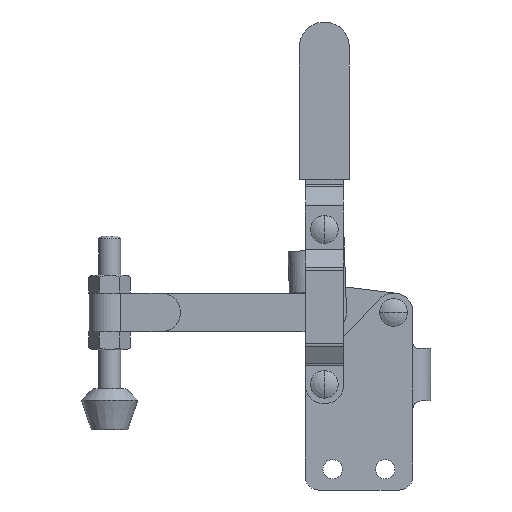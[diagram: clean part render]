
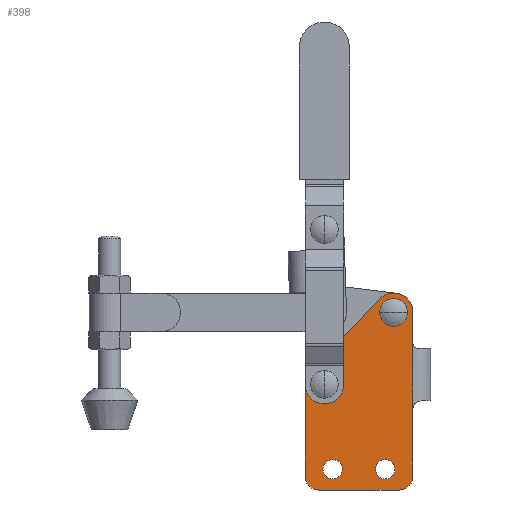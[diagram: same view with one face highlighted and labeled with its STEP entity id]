
A CAD part, front view. The second image highlights one B-rep face of the part: STEP entity #398.
In plain terms, the highlighted planar face has unit normal (0, -1, 0).
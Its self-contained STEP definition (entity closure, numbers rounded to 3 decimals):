
#225=CARTESIAN_POINT('Axis2P3D Location',(88.013,-6.4,0.)) ;
#230=CARTESIAN_POINT('Line Origine',(88.013,-6.4,17.1)) ;
#234=CARTESIAN_POINT('Cartesian Point',(88.013,-6.4,5.)) ;
#236=CARTESIAN_POINT('Cartesian Point',(88.013,-6.4,29.2)) ;
#240=CARTESIAN_POINT('Control Point',(88.013,-6.4,52.972)) ;
#241=CARTESIAN_POINT('Control Point',(88.013,-6.4,29.2)) ;
#242=CARTESIAN_POINT('Cartesian Point',(88.026,-6.4,52.972)) ;
#246=CARTESIAN_POINT('Control Point',(88.013,-6.4,53.2)) ;
#247=CARTESIAN_POINT('Control Point',(88.013,-6.4,52.972)) ;
#248=CARTESIAN_POINT('Cartesian Point',(88.013,-6.4,53.2)) ;
#251=CARTESIAN_POINT('Line Origine',(88.013,-6.4,58.7)) ;
#255=CARTESIAN_POINT('Cartesian Point',(88.013,-6.4,64.2)) ;
#258=CARTESIAN_POINT('Axis2P3D Location',(81.013,-6.4,64.2)) ;
#262=CARTESIAN_POINT('Cartesian Point',(81.044,-6.4,71.2)) ;
#265=CARTESIAN_POINT('Axis2P3D Location',(81.013,-6.4,64.2)) ;
#269=CARTESIAN_POINT('Cartesian Point',(75.967,-6.4,69.052)) ;
#272=CARTESIAN_POINT('Line Origine',(63.467,-6.4,56.052)) ;
#276=CARTESIAN_POINT('Cartesian Point',(50.967,-6.4,43.052)) ;
#279=CARTESIAN_POINT('Axis2P3D Location',(56.013,-6.4,38.2)) ;
#283=CARTESIAN_POINT('Cartesian Point',(49.013,-6.4,38.2)) ;
#286=CARTESIAN_POINT('Line Origine',(49.013,-6.4,21.6)) ;
#290=CARTESIAN_POINT('Cartesian Point',(49.013,-6.4,5.)) ;
#293=CARTESIAN_POINT('Axis2P3D Location',(54.013,-6.4,5.)) ;
#297=CARTESIAN_POINT('Cartesian Point',(54.013,-6.4,0.)) ;
#300=CARTESIAN_POINT('Line Origine',(68.513,-6.4,0.)) ;
#304=CARTESIAN_POINT('Cartesian Point',(83.013,-6.4,0.)) ;
#307=CARTESIAN_POINT('Axis2P3D Location',(83.013,-6.4,5.)) ;
#326=CARTESIAN_POINT('Axis2P3D Location',(78.013,-6.4,7.5)) ;
#330=CARTESIAN_POINT('Cartesian Point',(78.013,-6.4,4.)) ;
#332=CARTESIAN_POINT('Cartesian Point',(78.013,-6.4,11.)) ;
#335=CARTESIAN_POINT('Axis2P3D Location',(78.013,-6.4,7.5)) ;
#344=CARTESIAN_POINT('Axis2P3D Location',(59.013,-6.4,7.5)) ;
#348=CARTESIAN_POINT('Cartesian Point',(59.013,-6.4,4.)) ;
#350=CARTESIAN_POINT('Cartesian Point',(59.013,-6.4,11.)) ;
#353=CARTESIAN_POINT('Axis2P3D Location',(59.013,-6.4,7.5)) ;
#362=CARTESIAN_POINT('Axis2P3D Location',(81.013,-6.4,64.2)) ;
#366=CARTESIAN_POINT('Cartesian Point',(81.013,-6.4,61.)) ;
#368=CARTESIAN_POINT('Cartesian Point',(81.013,-6.4,67.4)) ;
#371=CARTESIAN_POINT('Axis2P3D Location',(81.013,-6.4,64.2)) ;
#380=CARTESIAN_POINT('Axis2P3D Location',(56.013,-6.4,38.2)) ;
#384=CARTESIAN_POINT('Cartesian Point',(56.013,-6.4,35.)) ;
#386=CARTESIAN_POINT('Cartesian Point',(56.013,-6.4,41.4)) ;
#389=CARTESIAN_POINT('Axis2P3D Location',(56.013,-6.4,38.2)) ;
#226=DIRECTION('Axis2P3D Direction',(0.,1.,0.)) ;
#227=DIRECTION('Axis2P3D XDirection',(0.,0.,-1.)) ;
#231=DIRECTION('Vector Direction',(0.,0.,1.)) ;
#252=DIRECTION('Vector Direction',(0.,0.,1.)) ;
#259=DIRECTION('Axis2P3D Direction',(0.,1.,0.)) ;
#266=DIRECTION('Axis2P3D Direction',(0.,1.,0.)) ;
#273=DIRECTION('Vector Direction',(-0.693,0.,-0.721)) ;
#280=DIRECTION('Axis2P3D Direction',(0.,1.,0.)) ;
#287=DIRECTION('Vector Direction',(0.,0.,1.)) ;
#294=DIRECTION('Axis2P3D Direction',(0.,1.,0.)) ;
#301=DIRECTION('Vector Direction',(1.,0.,0.)) ;
#308=DIRECTION('Axis2P3D Direction',(0.,1.,0.)) ;
#327=DIRECTION('Axis2P3D Direction',(0.,1.,0.)) ;
#336=DIRECTION('Axis2P3D Direction',(0.,1.,0.)) ;
#345=DIRECTION('Axis2P3D Direction',(0.,1.,0.)) ;
#354=DIRECTION('Axis2P3D Direction',(0.,1.,0.)) ;
#363=DIRECTION('Axis2P3D Direction',(0.,1.,0.)) ;
#372=DIRECTION('Axis2P3D Direction',(0.,1.,0.)) ;
#381=DIRECTION('Axis2P3D Direction',(0.,1.,0.)) ;
#390=DIRECTION('Axis2P3D Direction',(0.,1.,0.)) ;
#228=AXIS2_PLACEMENT_3D('Plane Axis2P3D',#225,#226,#227) ;
#260=AXIS2_PLACEMENT_3D('Circle Axis2P3D',#258,#259,$) ;
#267=AXIS2_PLACEMENT_3D('Circle Axis2P3D',#265,#266,$) ;
#281=AXIS2_PLACEMENT_3D('Circle Axis2P3D',#279,#280,$) ;
#295=AXIS2_PLACEMENT_3D('Circle Axis2P3D',#293,#294,$) ;
#309=AXIS2_PLACEMENT_3D('Circle Axis2P3D',#307,#308,$) ;
#328=AXIS2_PLACEMENT_3D('Circle Axis2P3D',#326,#327,$) ;
#337=AXIS2_PLACEMENT_3D('Circle Axis2P3D',#335,#336,$) ;
#346=AXIS2_PLACEMENT_3D('Circle Axis2P3D',#344,#345,$) ;
#355=AXIS2_PLACEMENT_3D('Circle Axis2P3D',#353,#354,$) ;
#364=AXIS2_PLACEMENT_3D('Circle Axis2P3D',#362,#363,$) ;
#373=AXIS2_PLACEMENT_3D('Circle Axis2P3D',#371,#372,$) ;
#382=AXIS2_PLACEMENT_3D('Circle Axis2P3D',#380,#381,$) ;
#391=AXIS2_PLACEMENT_3D('Circle Axis2P3D',#389,#390,$) ;
#313=ORIENTED_EDGE('Oriented Edge',*,*,#238,.T.) ;
#314=ORIENTED_EDGE('Oriented Edge',*,*,#244,.F.) ;
#315=ORIENTED_EDGE('Oriented Edge',*,*,#250,.F.) ;
#316=ORIENTED_EDGE('Oriented Edge',*,*,#257,.T.) ;
#317=ORIENTED_EDGE('Oriented Edge',*,*,#264,.T.) ;
#318=ORIENTED_EDGE('Oriented Edge',*,*,#271,.T.) ;
#319=ORIENTED_EDGE('Oriented Edge',*,*,#278,.T.) ;
#320=ORIENTED_EDGE('Oriented Edge',*,*,#285,.T.) ;
#321=ORIENTED_EDGE('Oriented Edge',*,*,#292,.F.) ;
#322=ORIENTED_EDGE('Oriented Edge',*,*,#299,.T.) ;
#323=ORIENTED_EDGE('Oriented Edge',*,*,#306,.T.) ;
#324=ORIENTED_EDGE('Oriented Edge',*,*,#311,.T.) ;
#341=ORIENTED_EDGE('Oriented Edge',*,*,#334,.T.) ;
#342=ORIENTED_EDGE('Oriented Edge',*,*,#339,.T.) ;
#359=ORIENTED_EDGE('Oriented Edge',*,*,#352,.T.) ;
#360=ORIENTED_EDGE('Oriented Edge',*,*,#357,.T.) ;
#377=ORIENTED_EDGE('Oriented Edge',*,*,#370,.T.) ;
#378=ORIENTED_EDGE('Oriented Edge',*,*,#375,.T.) ;
#395=ORIENTED_EDGE('Oriented Edge',*,*,#388,.T.) ;
#396=ORIENTED_EDGE('Oriented Edge',*,*,#393,.T.) ;
#343=FACE_BOUND('Face Bound',#340,.T.) ;
#361=FACE_BOUND('Face Bound',#358,.T.) ;
#379=FACE_BOUND('Face Bound',#376,.T.) ;
#397=FACE_BOUND('Face Bound',#394,.T.) ;
#232=VECTOR('Line Direction',#231,1.) ;
#253=VECTOR('Line Direction',#252,1.) ;
#274=VECTOR('Line Direction',#273,1.) ;
#288=VECTOR('Line Direction',#287,1.) ;
#302=VECTOR('Line Direction',#301,1.) ;
#398=ADVANCED_FACE('',(#325,#343,#361,#379,#397),#229,.F.) ;
#239=B_SPLINE_CURVE_WITH_KNOTS('BSpline Curve',1,(#240,#241),.UNSPECIFIED.,.F.,.U.,(2,2),(0.,23.772),.UNSPECIFIED.) ;
#245=B_SPLINE_CURVE_WITH_KNOTS('BSpline Curve',1,(#246,#247),.UNSPECIFIED.,.F.,.U.,(2,2),(0.,0.228),.UNSPECIFIED.) ;
#261=CIRCLE('generated circle',#260,7.) ;
#268=CIRCLE('generated circle',#267,7.) ;
#282=CIRCLE('generated circle',#281,7.) ;
#296=CIRCLE('generated circle',#295,5.) ;
#310=CIRCLE('generated circle',#309,5.) ;
#329=CIRCLE('generated circle',#328,3.5) ;
#338=CIRCLE('generated circle',#337,3.5) ;
#347=CIRCLE('generated circle',#346,3.5) ;
#356=CIRCLE('generated circle',#355,3.5) ;
#365=CIRCLE('generated circle',#364,3.2) ;
#374=CIRCLE('generated circle',#373,3.2) ;
#383=CIRCLE('generated circle',#382,3.2) ;
#392=CIRCLE('generated circle',#391,3.2) ;
#238=EDGE_CURVE('',#235,#237,#233,.T.) ;
#244=EDGE_CURVE('',#243,#237,#239,.T.) ;
#250=EDGE_CURVE('',#249,#243,#245,.T.) ;
#257=EDGE_CURVE('',#249,#256,#254,.T.) ;
#264=EDGE_CURVE('',#256,#263,#261,.F.) ;
#271=EDGE_CURVE('',#263,#270,#268,.F.) ;
#278=EDGE_CURVE('',#270,#277,#275,.T.) ;
#285=EDGE_CURVE('',#277,#284,#282,.F.) ;
#292=EDGE_CURVE('',#291,#284,#289,.T.) ;
#299=EDGE_CURVE('',#291,#298,#296,.F.) ;
#306=EDGE_CURVE('',#298,#305,#303,.T.) ;
#311=EDGE_CURVE('',#305,#235,#310,.F.) ;
#334=EDGE_CURVE('',#331,#333,#329,.T.) ;
#339=EDGE_CURVE('',#333,#331,#338,.T.) ;
#352=EDGE_CURVE('',#349,#351,#347,.T.) ;
#357=EDGE_CURVE('',#351,#349,#356,.T.) ;
#370=EDGE_CURVE('',#367,#369,#365,.T.) ;
#375=EDGE_CURVE('',#369,#367,#374,.T.) ;
#388=EDGE_CURVE('',#385,#387,#383,.T.) ;
#393=EDGE_CURVE('',#387,#385,#392,.T.) ;
#312=EDGE_LOOP('Oriented Loop',(#313,#314,#315,#316,#317,#318,#319,#320,#321,#322,#323,#324)) ;
#340=EDGE_LOOP('Oriented Loop',(#341,#342)) ;
#358=EDGE_LOOP('Oriented Loop',(#359,#360)) ;
#376=EDGE_LOOP('Oriented Loop',(#377,#378)) ;
#394=EDGE_LOOP('Oriented Loop',(#395,#396)) ;
#325=FACE_OUTER_BOUND('Face Bound',#312,.T.) ;
#233=LINE('Line',#230,#232) ;
#254=LINE('Line',#251,#253) ;
#275=LINE('Line',#272,#274) ;
#289=LINE('Line',#286,#288) ;
#303=LINE('Line',#300,#302) ;
#229=PLANE('Plane',#228) ;
#235=VERTEX_POINT('Vertex Point',#234) ;
#237=VERTEX_POINT('Vertex Point',#236) ;
#243=VERTEX_POINT('Vertex Point',#242) ;
#249=VERTEX_POINT('Vertex Point',#248) ;
#256=VERTEX_POINT('Vertex Point',#255) ;
#263=VERTEX_POINT('Vertex Point',#262) ;
#270=VERTEX_POINT('Vertex Point',#269) ;
#277=VERTEX_POINT('Vertex Point',#276) ;
#284=VERTEX_POINT('Vertex Point',#283) ;
#291=VERTEX_POINT('Vertex Point',#290) ;
#298=VERTEX_POINT('Vertex Point',#297) ;
#305=VERTEX_POINT('Vertex Point',#304) ;
#331=VERTEX_POINT('Vertex Point',#330) ;
#333=VERTEX_POINT('Vertex Point',#332) ;
#349=VERTEX_POINT('Vertex Point',#348) ;
#351=VERTEX_POINT('Vertex Point',#350) ;
#367=VERTEX_POINT('Vertex Point',#366) ;
#369=VERTEX_POINT('Vertex Point',#368) ;
#385=VERTEX_POINT('Vertex Point',#384) ;
#387=VERTEX_POINT('Vertex Point',#386) ;
